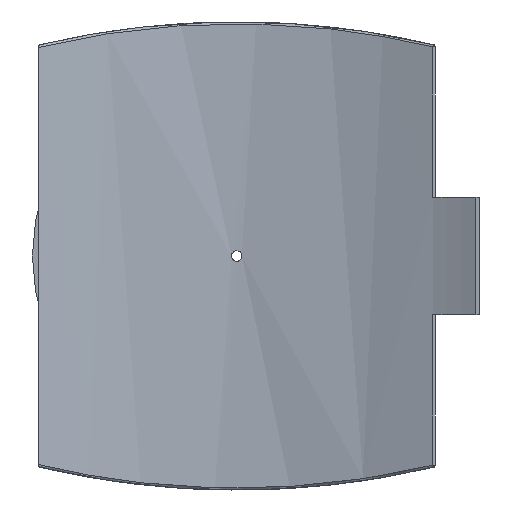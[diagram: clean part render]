
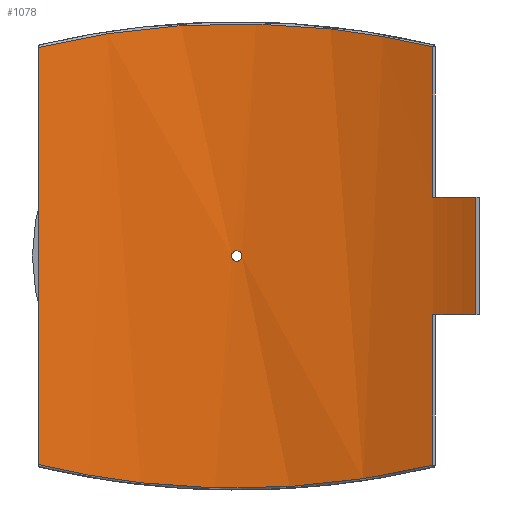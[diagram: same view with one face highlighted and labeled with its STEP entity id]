
A CAD part, front view. The second image highlights one B-rep face of the part: STEP entity #1078.
In plain terms, the highlighted cylindrical face has radius 500 mm (diameter 1000 mm), a partial arc.
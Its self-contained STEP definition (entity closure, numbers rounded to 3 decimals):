
#55=FACE_BOUND('',#355,.T.);
#109=B_SPLINE_CURVE_WITH_KNOTS('',3,(#2206,#2207,#2208,#2209,#2210,#2211,
#2212,#2213,#2214),.UNSPECIFIED.,.F.,.F.,(4,1,1,1,1,1,4),(-46.467,
-40.579,-34.691,-28.803,-22.915,
-17.027,-5.251),.UNSPECIFIED.);
#110=B_SPLINE_CURVE_WITH_KNOTS('',3,(#2223,#2224,#2225,#2226,#2227,#2228,
#2229,#2230,#2231),.UNSPECIFIED.,.F.,.F.,(4,1,1,1,1,1,4),(-42.344,
-36.456,-30.568,-24.68,-18.792,
-12.904,-1.128),.UNSPECIFIED.);
#111=B_SPLINE_CURVE_WITH_KNOTS('',3,(#2234,#2235,#2236,#2237,#2238,#2239,
#2240,#2241,#2242,#2243),.UNSPECIFIED.,.F.,.F.,(4,2,2,2,4),(0.,0.196,
0.392,0.588,0.784),.UNSPECIFIED.);
#112=B_SPLINE_CURVE_WITH_KNOTS('',3,(#2244,#2245,#2246,#2247,#2248,#2249,
#2250,#2251,#2252,#2253,#2254,#2255,#2256,#2257,#2258,#2259,#2260,#2261,
#2262,#2263,#2264,#2265,#2266,#2267,#2268,#2269),.UNSPECIFIED.,.F.,.F.,
(4,2,2,2,2,2,2,2,2,2,2,2,4),(0.784,0.979,1.175,
1.371,1.567,1.763,1.959,2.155,
2.351,2.546,2.742,2.938,3.134),
 .UNSPECIFIED.);
#133=LINE('',#1615,#184);
#144=LINE('',#1902,#195);
#151=LINE('',#2219,#202);
#152=LINE('',#2222,#203);
#184=VECTOR('',#1292,10.);
#195=VECTOR('',#1331,10.);
#202=VECTOR('',#1368,10.);
#203=VECTOR('',#1371,10.);
#244=CYLINDRICAL_SURFACE('',#1175,500.);
#288=FACE_OUTER_BOUND('',#354,.T.);
#354=EDGE_LOOP('',(#839,#840,#841,#842,#843,#844,#845,#846));
#355=EDGE_LOOP('',(#847,#848));
#449=CIRCLE('',#1176,500.);
#450=CIRCLE('',#1177,500.);
#510=VERTEX_POINT('',#1606);
#513=VERTEX_POINT('',#1613);
#533=VERTEX_POINT('',#1895);
#536=VERTEX_POINT('',#1900);
#549=VERTEX_POINT('',#2192);
#550=VERTEX_POINT('',#2216);
#551=VERTEX_POINT('',#2218);
#552=VERTEX_POINT('',#2221);
#553=VERTEX_POINT('',#2232);
#554=VERTEX_POINT('',#2233);
#613=EDGE_CURVE('',#513,#510,#133,.T.);
#643=EDGE_CURVE('',#536,#533,#144,.T.);
#666=EDGE_CURVE('',#549,#536,#109,.T.);
#667=EDGE_CURVE('',#550,#513,#449,.T.);
#668=EDGE_CURVE('',#550,#551,#151,.T.);
#669=EDGE_CURVE('',#533,#551,#450,.T.);
#670=EDGE_CURVE('',#552,#549,#152,.T.);
#671=EDGE_CURVE('',#510,#552,#110,.T.);
#672=EDGE_CURVE('',#553,#554,#111,.T.);
#673=EDGE_CURVE('',#554,#553,#112,.T.);
#839=ORIENTED_EDGE('',*,*,#667,.F.);
#840=ORIENTED_EDGE('',*,*,#668,.T.);
#841=ORIENTED_EDGE('',*,*,#669,.F.);
#842=ORIENTED_EDGE('',*,*,#643,.F.);
#843=ORIENTED_EDGE('',*,*,#666,.F.);
#844=ORIENTED_EDGE('',*,*,#670,.F.);
#845=ORIENTED_EDGE('',*,*,#671,.F.);
#846=ORIENTED_EDGE('',*,*,#613,.F.);
#847=ORIENTED_EDGE('',*,*,#672,.T.);
#848=ORIENTED_EDGE('',*,*,#673,.T.);
#1078=ADVANCED_FACE('',(#288,#55),#244,.F.);
#1175=AXIS2_PLACEMENT_3D('',#2215,#1364,#1365);
#1176=AXIS2_PLACEMENT_3D('',#2217,#1366,#1367);
#1177=AXIS2_PLACEMENT_3D('',#2220,#1369,#1370);
#1292=DIRECTION('',(0.,0.,-1.));
#1331=DIRECTION('',(0.,0.,-1.));
#1364=DIRECTION('center_axis',(0.,0.,1.));
#1365=DIRECTION('ref_axis',(-1.,0.,0.));
#1366=DIRECTION('center_axis',(0.,0.,1.));
#1367=DIRECTION('ref_axis',(-0.48,-0.877,0.));
#1368=DIRECTION('',(0.,0.,1.));
#1369=DIRECTION('center_axis',(0.,0.,-1.));
#1370=DIRECTION('ref_axis',(-0.48,-0.877,0.));
#1371=DIRECTION('',(0.,0.,1.));
#1606=CARTESIAN_POINT('',(196.564,459.742,-209.92));
#1613=CARTESIAN_POINT('',(196.564,459.742,-58.75));
#1615=CARTESIAN_POINT('',(196.564,459.742,0.));
#1895=CARTESIAN_POINT('',(196.564,459.742,58.75));
#1900=CARTESIAN_POINT('',(196.564,459.742,209.92));
#1902=CARTESIAN_POINT('',(196.564,459.742,0.));
#2192=CARTESIAN_POINT('',(-199.35,458.541,209.252));
#2206=CARTESIAN_POINT('Ctrl Pts',(-199.35,458.541,209.252));
#2207=CARTESIAN_POINT('Ctrl Pts',(-181.846,466.151,213.482));
#2208=CARTESIAN_POINT('Ctrl Pts',(-145.767,479.449,221.018));
#2209=CARTESIAN_POINT('Ctrl Pts',(-89.169,493.14,228.962));
#2210=CARTESIAN_POINT('Ctrl Pts',(-30.94,500.194,233.115));
#2211=CARTESIAN_POINT('Ctrl Pts',(27.827,500.373,233.217));
#2212=CARTESIAN_POINT('Ctrl Pts',(105.552,491.462,227.981));
#2213=CARTESIAN_POINT('Ctrl Pts',(161.437,474.761,218.284));
#2214=CARTESIAN_POINT('Ctrl Pts',(196.564,459.742,209.92));
#2215=CARTESIAN_POINT('Origin',(0.,0.,0.));
#2216=CARTESIAN_POINT('',(239.848,438.718,-58.75));
#2217=CARTESIAN_POINT('Origin',(0.,0.,
-58.75));
#2218=CARTESIAN_POINT('',(239.848,438.718,58.75));
#2219=CARTESIAN_POINT('',(239.848,438.718,0.));
#2220=CARTESIAN_POINT('Origin',(0.,0.,
58.75));
#2221=CARTESIAN_POINT('',(-199.35,458.541,-209.252));
#2222=CARTESIAN_POINT('',(-199.35,458.541,0.));
#2223=CARTESIAN_POINT('Ctrl Pts',(196.564,459.742,-209.92));
#2224=CARTESIAN_POINT('Ctrl Pts',(179.,467.251,-214.102));
#2225=CARTESIAN_POINT('Ctrl Pts',(142.825,480.335,-221.528));
#2226=CARTESIAN_POINT('Ctrl Pts',(86.111,493.685,-229.281));
#2227=CARTESIAN_POINT('Ctrl Pts',(27.831,500.376,-233.223));
#2228=CARTESIAN_POINT('Ctrl Pts',(-30.939,500.19,-233.109));
#2229=CARTESIAN_POINT('Ctrl Pts',(-108.587,490.798,-227.591));
#2230=CARTESIAN_POINT('Ctrl Pts',(-164.342,473.761,-217.712));
#2231=CARTESIAN_POINT('Ctrl Pts',(-199.35,458.541,-209.252));
#2232=CARTESIAN_POINT('',(5.2,499.973,0.));
#2233=CARTESIAN_POINT('',(0.,500.,-5.2));
#2234=CARTESIAN_POINT('Ctrl Pts',(5.2,499.973,0.));
#2235=CARTESIAN_POINT('Ctrl Pts',(5.2,499.973,-0.653));
#2236=CARTESIAN_POINT('Ctrl Pts',(5.07,499.974,-1.349));
#2237=CARTESIAN_POINT('Ctrl Pts',(4.539,499.979,-2.631));
#2238=CARTESIAN_POINT('Ctrl Pts',(4.139,499.983,-3.215));
#2239=CARTESIAN_POINT('Ctrl Pts',(3.215,499.99,-4.139));
#2240=CARTESIAN_POINT('Ctrl Pts',(2.631,499.993,-4.539));
#2241=CARTESIAN_POINT('Ctrl Pts',(1.349,499.999,-5.07));
#2242=CARTESIAN_POINT('Ctrl Pts',(0.653,500.,-5.2));
#2243=CARTESIAN_POINT('Ctrl Pts',(0.,500.,-5.2));
#2244=CARTESIAN_POINT('Ctrl Pts',(0.,500.,-5.2));
#2245=CARTESIAN_POINT('Ctrl Pts',(-0.653,500.,-5.2));
#2246=CARTESIAN_POINT('Ctrl Pts',(-1.349,499.999,-5.07));
#2247=CARTESIAN_POINT('Ctrl Pts',(-2.631,499.993,-4.539));
#2248=CARTESIAN_POINT('Ctrl Pts',(-3.215,499.99,-4.139));
#2249=CARTESIAN_POINT('Ctrl Pts',(-4.139,499.983,-3.215));
#2250=CARTESIAN_POINT('Ctrl Pts',(-4.539,499.979,-2.631));
#2251=CARTESIAN_POINT('Ctrl Pts',(-5.07,499.974,-1.349));
#2252=CARTESIAN_POINT('Ctrl Pts',(-5.2,499.973,-0.653));
#2253=CARTESIAN_POINT('Ctrl Pts',(-5.2,499.973,0.653));
#2254=CARTESIAN_POINT('Ctrl Pts',(-5.07,499.974,1.349));
#2255=CARTESIAN_POINT('Ctrl Pts',(-4.539,499.979,2.631));
#2256=CARTESIAN_POINT('Ctrl Pts',(-4.139,499.983,3.215));
#2257=CARTESIAN_POINT('Ctrl Pts',(-3.215,499.99,4.139));
#2258=CARTESIAN_POINT('Ctrl Pts',(-2.631,499.993,4.539));
#2259=CARTESIAN_POINT('Ctrl Pts',(-1.349,499.999,5.07));
#2260=CARTESIAN_POINT('Ctrl Pts',(-0.653,500.,5.2));
#2261=CARTESIAN_POINT('Ctrl Pts',(0.653,500.,5.2));
#2262=CARTESIAN_POINT('Ctrl Pts',(1.349,499.999,5.07));
#2263=CARTESIAN_POINT('Ctrl Pts',(2.631,499.993,4.539));
#2264=CARTESIAN_POINT('Ctrl Pts',(3.215,499.99,4.139));
#2265=CARTESIAN_POINT('Ctrl Pts',(4.139,499.983,3.215));
#2266=CARTESIAN_POINT('Ctrl Pts',(4.539,499.979,2.631));
#2267=CARTESIAN_POINT('Ctrl Pts',(5.07,499.974,1.349));
#2268=CARTESIAN_POINT('Ctrl Pts',(5.2,499.973,0.653));
#2269=CARTESIAN_POINT('Ctrl Pts',(5.2,499.973,0.));
